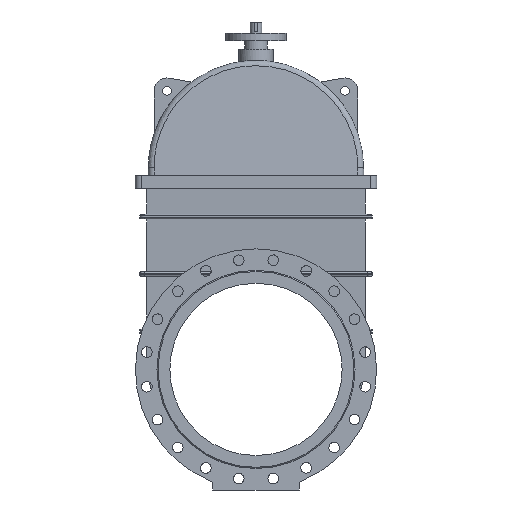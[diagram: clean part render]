
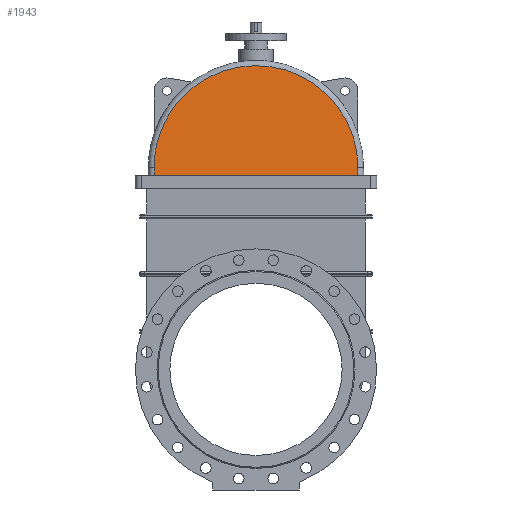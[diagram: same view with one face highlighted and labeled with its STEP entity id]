
A CAD part, front view. The second image highlights one B-rep face of the part: STEP entity #1943.
In plain terms, the highlighted planar face has unit normal (0, -0.996, 0.087).
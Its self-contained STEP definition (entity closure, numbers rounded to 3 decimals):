
#1943=ADVANCED_FACE('',(#5677),#5679,.T.);
#5677=FACE_BOUND('',#5678,.T.);
#5678=EDGE_LOOP('',(#7641,#7642,#7643,#7644));
#5679=PLANE('',#5680);
#5680=AXIS2_PLACEMENT_3D('',#5681,#5682,#5683);
#5681=CARTESIAN_POINT('',(-375.,-283.779,-1081.705));
#5682=DIRECTION('',(0.,-0.996,0.087));
#5683=DIRECTION('',(1.,0.,0.));
#7641=ORIENTED_EDGE('',*,*,#8303,.T.);
#7642=ORIENTED_EDGE('',*,*,#8306,.T.);
#7643=ORIENTED_EDGE('',*,*,#8307,.T.);
#7644=ORIENTED_EDGE('',*,*,#8296,.T.);
#8296=EDGE_CURVE('',#9224,#9221,#9225,.T.);
#8303=EDGE_CURVE('',#9221,#9237,#9238,.T.);
#8306=EDGE_CURVE('',#9237,#9242,#9243,.T.);
#8307=EDGE_CURVE('',#9242,#9224,#9244,.T.);
#9221=VERTEX_POINT('',#11727);
#9224=VERTEX_POINT('',#11733);
#9225=LINE('',#11734,#11735);
#9237=VERTEX_POINT('',#11763);
#9238=LINE('',#11764,#11765);
#9242=VERTEX_POINT('',#11775);
#9243=(BOUNDED_CURVE()B_SPLINE_CURVE(3,
(#11776,#11777,#11778,#11779),
.UNSPECIFIED.,.F.,.F.)B_SPLINE_CURVE_WITH_KNOTS((4,4),
(0.,1.),
.UNSPECIFIED.)CURVE()GEOMETRIC_REPRESENTATION_ITEM()RATIONAL_B_SPLINE_CURVE((1.,
0.333,0.333,1.))REPRESENTATION_ITEM(''));
#9244=LINE('',#11780,#11781);
#11727=CARTESIAN_POINT('',(355.,-130.,676.));
#11733=CARTESIAN_POINT('',(-355.,-130.,676.));
#11734=CARTESIAN_POINT('',(-355.,-130.,676.));
#11735=VECTOR('',#11736,1.);
#11736=DIRECTION('',(1.,0.,0.));
#11763=CARTESIAN_POINT('',(355.,-127.66,702.743));
#11764=CARTESIAN_POINT('',(355.,-130.,676.));
#11765=VECTOR('',#11766,1.);
#11766=DIRECTION('',(0.,0.087,0.996));
#11775=CARTESIAN_POINT('',(-355.,-127.66,702.743));
#11776=CARTESIAN_POINT('',(355.,-127.66,702.743));
#11777=CARTESIAN_POINT('',(355.,-65.543,1412.743));
#11778=CARTESIAN_POINT('',(-355.,-65.543,1412.743));
#11779=CARTESIAN_POINT('',(-355.,-127.66,702.743));
#11780=CARTESIAN_POINT('',(-355.,-127.66,702.743));
#11781=VECTOR('',#11782,1.);
#11782=DIRECTION('',(0.,-0.087,-0.996));
